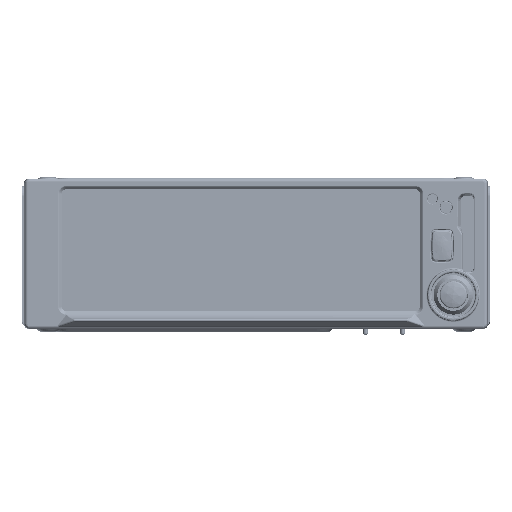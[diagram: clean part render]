
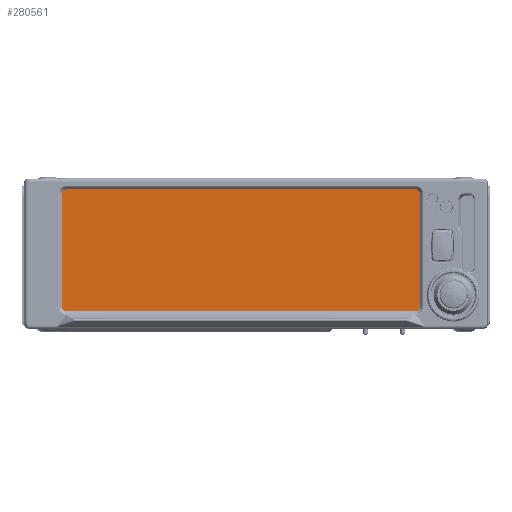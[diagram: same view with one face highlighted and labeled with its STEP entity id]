
A CAD part, top view. The second image highlights one B-rep face of the part: STEP entity #280561.
In plain terms, the highlighted planar face has unit normal (0, 0, 1).
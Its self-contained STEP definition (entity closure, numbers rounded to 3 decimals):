
#7537 = DIRECTION ( 'NONE',  ( -1., 0., 0. ) ) ;
#10396 = DIRECTION ( 'NONE',  ( 1., 0., 0. ) ) ;
#12792 = LINE ( 'NONE', #234160, #37696 ) ;
#15456 = FACE_OUTER_BOUND ( 'NONE', #25891, .T. ) ;
#22994 = DIRECTION ( 'NONE',  ( 0., 0., -1. ) ) ;
#25606 = DIRECTION ( 'NONE',  ( 0., 0., -1. ) ) ;
#25891 = EDGE_LOOP ( 'NONE', ( #141799, #158398, #226320, #255396, #245001, #290163, #201225, #155333 ) ) ;
#28915 = VERTEX_POINT ( 'NONE', #199004 ) ;
#29784 = CARTESIAN_POINT ( 'NONE',  ( -59.72, 21.33, 4.379 ) ) ;
#33181 = CIRCLE ( 'NONE', #91996, 1.5 ) ;
#37696 = VECTOR ( 'NONE', #7537, 1000. ) ;
#38602 = DIRECTION ( 'NONE',  ( 0., 0., -1. ) ) ;
#40972 = DIRECTION ( 'NONE',  ( 0., -1., 0. ) ) ;
#41458 = CARTESIAN_POINT ( 'NONE',  ( -61.22, -18.83, 4.379 ) ) ;
#44952 = AXIS2_PLACEMENT_3D ( 'NONE', #117405, #119360, #251557 ) ;
#46728 = CARTESIAN_POINT ( 'NONE',  ( 59.72, -20.33, 4.379 ) ) ;
#47980 = VERTEX_POINT ( 'NONE', #41458 ) ;
#48444 = EDGE_CURVE ( 'NONE', #106699, #67301, #281559, .T. ) ;
#50226 = CIRCLE ( 'NONE', #194034, 1.5 ) ;
#57463 = VECTOR ( 'NONE', #149838, 1000. ) ;
#67301 = VERTEX_POINT ( 'NONE', #294127 ) ;
#68788 = CARTESIAN_POINT ( 'NONE',  ( 59.72, 19.83, 4.379 ) ) ;
#91996 = AXIS2_PLACEMENT_3D ( 'NONE', #68788, #22994, #181070 ) ;
#106699 = VERTEX_POINT ( 'NONE', #29784 ) ;
#117405 = CARTESIAN_POINT ( 'NONE',  ( 0., 0., 4.379 ) ) ;
#119360 = DIRECTION ( 'NONE',  ( 0., 0., 1. ) ) ;
#124803 = AXIS2_PLACEMENT_3D ( 'NONE', #261899, #283732, #10396 ) ;
#130135 = VERTEX_POINT ( 'NONE', #167002 ) ;
#133506 = DIRECTION ( 'NONE',  ( 1., 0., 0. ) ) ;
#139316 = PLANE ( 'NONE',  #44952 ) ;
#141799 = ORIENTED_EDGE ( 'NONE', *, *, #265240, .F. ) ;
#149838 = DIRECTION ( 'NONE',  ( 0., 1., 0. ) ) ;
#151807 = EDGE_CURVE ( 'NONE', #47980, #130135, #199710, .T. ) ;
#155333 = ORIENTED_EDGE ( 'NONE', *, *, #255100, .F. ) ;
#156371 = CARTESIAN_POINT ( 'NONE',  ( 59.72, 21.33, 4.379 ) ) ;
#158398 = ORIENTED_EDGE ( 'NONE', *, *, #48444, .F. ) ;
#159548 = EDGE_CURVE ( 'NONE', #267452, #216094, #12792, .T. ) ;
#167002 = CARTESIAN_POINT ( 'NONE',  ( -61.22, 19.83, 4.379 ) ) ;
#170677 = AXIS2_PLACEMENT_3D ( 'NONE', #187620, #25606, #275088 ) ;
#170713 = CARTESIAN_POINT ( 'NONE',  ( -61.22, 19.83, 4.379 ) ) ;
#179624 = VECTOR ( 'NONE', #40972, 1000. ) ;
#181070 = DIRECTION ( 'NONE',  ( 1., 0., 0. ) ) ;
#187620 = CARTESIAN_POINT ( 'NONE',  ( 59.72, -18.83, 4.379 ) ) ;
#191395 = EDGE_CURVE ( 'NONE', #216094, #47980, #240897, .T. ) ;
#194034 = AXIS2_PLACEMENT_3D ( 'NONE', #221364, #38602, #197609 ) ;
#196358 = CARTESIAN_POINT ( 'NONE',  ( -59.72, -20.33, 4.379 ) ) ;
#197609 = DIRECTION ( 'NONE',  ( 1., 0., 0. ) ) ;
#199004 = CARTESIAN_POINT ( 'NONE',  ( 61.22, -18.83, 4.379 ) ) ;
#199710 = LINE ( 'NONE', #170713, #57463 ) ;
#201225 = ORIENTED_EDGE ( 'NONE', *, *, #251675, .F. ) ;
#204425 = LINE ( 'NONE', #289366, #179624 ) ;
#205618 = CIRCLE ( 'NONE', #170677, 1.5 ) ;
#214001 = VECTOR ( 'NONE', #133506, 1000. ) ;
#216094 = VERTEX_POINT ( 'NONE', #196358 ) ;
#218069 = EDGE_CURVE ( 'NONE', #130135, #106699, #50226, .T. ) ;
#221364 = CARTESIAN_POINT ( 'NONE',  ( -59.72, 19.83, 4.379 ) ) ;
#226320 = ORIENTED_EDGE ( 'NONE', *, *, #218069, .F. ) ;
#234160 = CARTESIAN_POINT ( 'NONE',  ( -59.72, -20.33, 4.379 ) ) ;
#240897 = CIRCLE ( 'NONE', #124803, 1.5 ) ;
#245001 = ORIENTED_EDGE ( 'NONE', *, *, #191395, .F. ) ;
#251557 = DIRECTION ( 'NONE',  ( 1., 0., 0. ) ) ;
#251675 = EDGE_CURVE ( 'NONE', #28915, #267452, #205618, .T. ) ;
#255100 = EDGE_CURVE ( 'NONE', #256170, #28915, #204425, .T. ) ;
#255396 = ORIENTED_EDGE ( 'NONE', *, *, #151807, .F. ) ;
#256170 = VERTEX_POINT ( 'NONE', #290990 ) ;
#261899 = CARTESIAN_POINT ( 'NONE',  ( -59.72, -18.83, 4.379 ) ) ;
#265240 = EDGE_CURVE ( 'NONE', #67301, #256170, #33181, .T. ) ;
#267452 = VERTEX_POINT ( 'NONE', #46728 ) ;
#275088 = DIRECTION ( 'NONE',  ( 1., 0., 0. ) ) ;
#280561 = ADVANCED_FACE ( 'NONE', ( #15456 ), #139316, .T. ) ;
#281559 = LINE ( 'NONE', #156371, #214001 ) ;
#283732 = DIRECTION ( 'NONE',  ( 0., 0., -1. ) ) ;
#289366 = CARTESIAN_POINT ( 'NONE',  ( 61.22, -18.83, 4.379 ) ) ;
#290163 = ORIENTED_EDGE ( 'NONE', *, *, #159548, .F. ) ;
#290990 = CARTESIAN_POINT ( 'NONE',  ( 61.22, 19.83, 4.379 ) ) ;
#294127 = CARTESIAN_POINT ( 'NONE',  ( 59.72, 21.33, 4.379 ) ) ;
